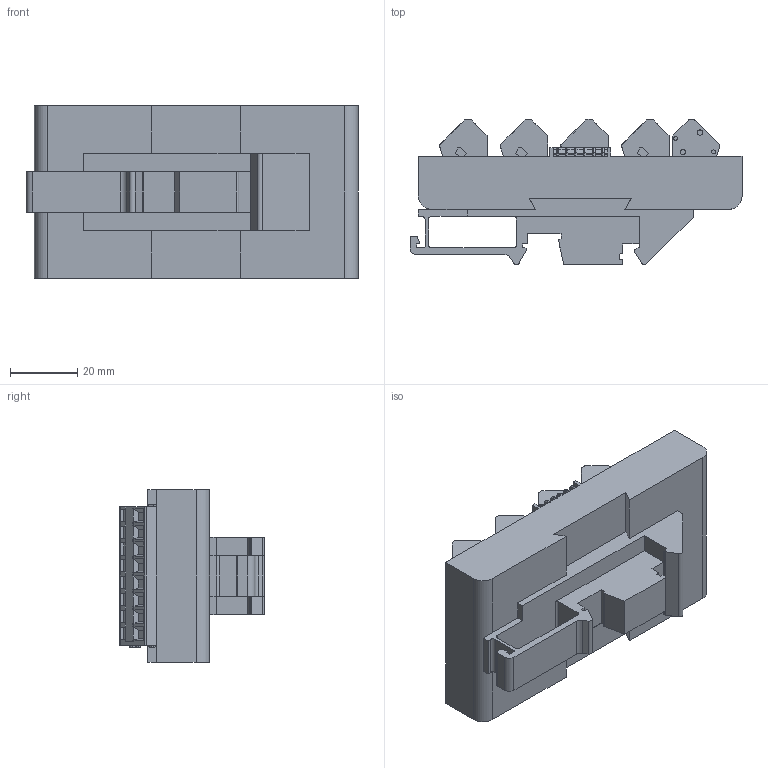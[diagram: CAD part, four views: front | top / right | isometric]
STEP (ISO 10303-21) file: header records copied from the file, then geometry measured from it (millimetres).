
FILE_DESCRIPTION(/* description */ ('Katalogmodell Elobau'),/* implementation_level */ '2;1');
FILE_NAME(/* name */ '363V99.stp',/* time_stamp */ '2014-04-09T07:44:53+02:00',/* author */ ('Elobau GmbH & Co. KG'),/* organization */ ('Elobau GmbH & Co. KG'),/* preprocessor_version */ 'ST-DEVELOPER v15',/* originating_system */ 'SIEMENS PLM Software NX 8.5',/* authorisation */ '');
FILE_SCHEMA (('AUTOMOTIVE_DESIGN { 1 0 10303 214 3 1 1 1 }'));
Length unit declared in the file: millimetre
Products named in the file (1): 363V99_B
Bounding box: 98.5 x 43.01 x 51.2 mm (x, y, z)
Volume: 102771.8 mm3; surface area: 28674.5 mm2
Topology: 1 solids, 1 shells, 1264 faces, 3356 edges, 2152 vertices
Faces by surface type: plane 952, cylinder 264, bspline 48
Entity records: 45337 total; most frequent: CARTESIAN_POINT 8213, ORIENTED_EDGE 6712, DIRECTION 6130, EDGE_CURVE 3356, LINE 2636, VECTOR 2636, VERTEX_POINT 2152, AXIS2_PLACEMENT_3D 1747
